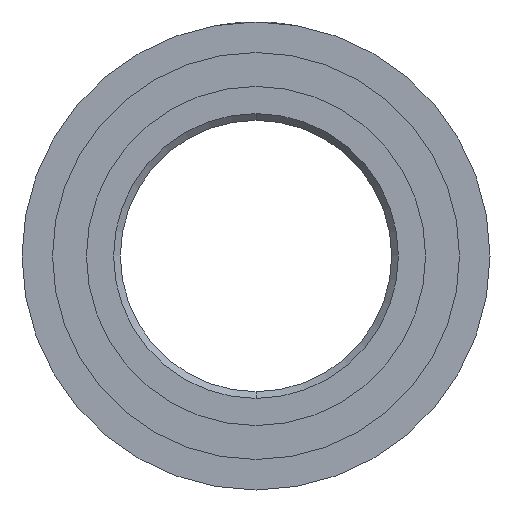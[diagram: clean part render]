
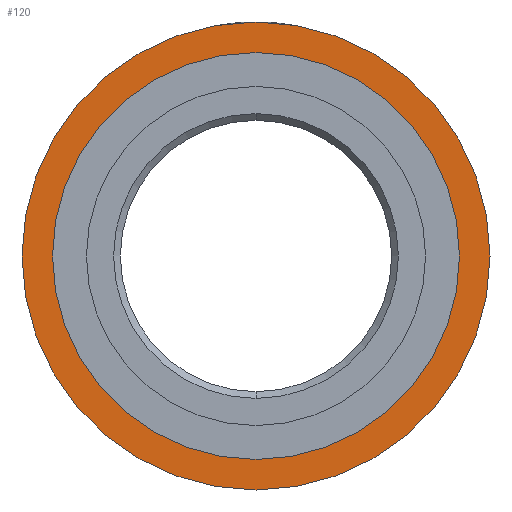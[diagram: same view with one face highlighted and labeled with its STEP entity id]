
A CAD part, front view. The second image highlights one B-rep face of the part: STEP entity #120.
In plain terms, the highlighted planar face has unit normal (0, -1, 0).
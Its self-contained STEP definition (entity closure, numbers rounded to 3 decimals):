
#120 = ADVANCED_FACE ( 'NONE', ( #279, #311 ), #740, .F. ) ;
#186 = VERTEX_POINT ( 'NONE', #247 ) ;
#229 = VERTEX_POINT ( 'NONE', #592 ) ;
#238 = CARTESIAN_POINT ( 'NONE',  ( 0., 6., 0. ) ) ;
#247 = CARTESIAN_POINT ( 'NONE',  ( 0., 6., 60. ) ) ;
#279 = FACE_BOUND ( 'NONE', #481, .T. ) ;
#301 = CARTESIAN_POINT ( 'NONE',  ( 0., 6., -60. ) ) ;
#303 = CARTESIAN_POINT ( 'NONE',  ( 0., 6., 0. ) ) ;
#307 = AXIS2_PLACEMENT_3D ( 'NONE', #1054, #531, #1138 ) ;
#310 = AXIS2_PLACEMENT_3D ( 'NONE', #238, #893, #336 ) ;
#311 = FACE_OUTER_BOUND ( 'NONE', #466, .T. ) ;
#336 = DIRECTION ( 'NONE',  ( 0., 0., -1. ) ) ;
#363 = AXIS2_PLACEMENT_3D ( 'NONE', #303, #939, #402 ) ;
#369 = AXIS2_PLACEMENT_3D ( 'NONE', #1104, #590, #1184 ) ;
#388 = ORIENTED_EDGE ( 'NONE', *, *, #707, .F. ) ;
#402 = DIRECTION ( 'NONE',  ( 0., 0., -1. ) ) ;
#403 = VERTEX_POINT ( 'NONE', #301 ) ;
#455 = ORIENTED_EDGE ( 'NONE', *, *, #761, .F. ) ;
#466 = EDGE_LOOP ( 'NONE', ( #467, #559 ) ) ;
#467 = ORIENTED_EDGE ( 'NONE', *, *, #692, .T. ) ;
#479 = VERTEX_POINT ( 'NONE', #1159 ) ;
#481 = EDGE_LOOP ( 'NONE', ( #388, #455 ) ) ;
#506 = AXIS2_PLACEMENT_3D ( 'NONE', #813, #824, #735 ) ;
#507 = CIRCLE ( 'NONE', #307, 69. ) ;
#531 = DIRECTION ( 'NONE',  ( 0., -1., 0. ) ) ;
#559 = ORIENTED_EDGE ( 'NONE', *, *, #763, .T. ) ;
#590 = DIRECTION ( 'NONE',  ( 0., -1., 0. ) ) ;
#592 = CARTESIAN_POINT ( 'NONE',  ( 0., 6., 69. ) ) ;
#627 = CIRCLE ( 'NONE', #363, 60. ) ;
#666 = CIRCLE ( 'NONE', #369, 69. ) ;
#692 = EDGE_CURVE ( 'NONE', #479, #229, #666, .T. ) ;
#707 = EDGE_CURVE ( 'NONE', #403, #186, #627, .T. ) ;
#735 = DIRECTION ( 'NONE',  ( 0., 0., 1. ) ) ;
#740 = PLANE ( 'NONE',  #506 ) ;
#761 = EDGE_CURVE ( 'NONE', #186, #403, #775, .T. ) ;
#763 = EDGE_CURVE ( 'NONE', #229, #479, #507, .T. ) ;
#775 = CIRCLE ( 'NONE', #310, 60. ) ;
#813 = CARTESIAN_POINT ( 'NONE',  ( -60., 6., 0. ) ) ;
#824 = DIRECTION ( 'NONE',  ( 0., 1., 0. ) ) ;
#893 = DIRECTION ( 'NONE',  ( 0., -1., 0. ) ) ;
#939 = DIRECTION ( 'NONE',  ( 0., -1., 0. ) ) ;
#1054 = CARTESIAN_POINT ( 'NONE',  ( 0., 6., 0. ) ) ;
#1104 = CARTESIAN_POINT ( 'NONE',  ( 0., 6., 0. ) ) ;
#1138 = DIRECTION ( 'NONE',  ( 0., 0., -1. ) ) ;
#1159 = CARTESIAN_POINT ( 'NONE',  ( 0., 6., -69. ) ) ;
#1184 = DIRECTION ( 'NONE',  ( 0., 0., -1. ) ) ;
